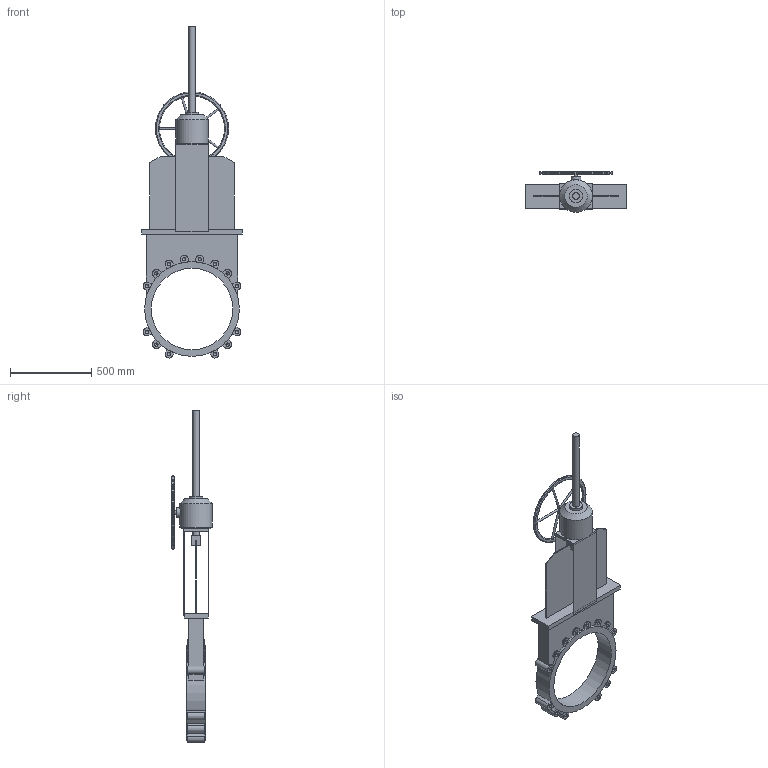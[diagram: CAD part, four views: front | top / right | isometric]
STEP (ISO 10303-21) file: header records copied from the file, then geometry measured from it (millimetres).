
FILE_DESCRIPTION(('STEP AP203'), '1');
FILE_NAME('Çàäâèæêà øèáåðíàÿ K51GV DN500 ðåäóêòîð+âûäâèæíîé øïèíäåëü', '', ('UNSPECIFIED'), ('UNSPECIFIED'), 'ASCON STEP Converter 1.6', 'ASCON Math Kernel', '');
FILE_SCHEMA(('CONFIG_CONTROL_DESIGN'));
Length unit declared in the file: millimetre
Bounding box: 620 x 250 x 2041.18 mm (x, y, z)
Volume: 33127843.4 mm3; surface area: 2394857 mm2
Topology: 1 solids, 1 shells, 230 faces, 626 edges, 401 vertices
Faces by surface type: plane 124, cylinder 69, cone 29, torus 8
Full cylindrical faces by diameter (mm): 12 x5, 20.752 x28, 24 x1, 40 x2, 60 x1, 80 x1, 175 x1, 200 x1, 450 x1, 500 x1, 582 x1
Entity records: 10881 total; most frequent: CARTESIAN_POINT 3616, DIRECTION 1132, ORIENTED_EDGE 1038, EDGE_CURVE 519, AXIS2_PLACEMENT_3D 425, VERTEX_POINT 371, EDGE_LOOP 325, LINE 282
